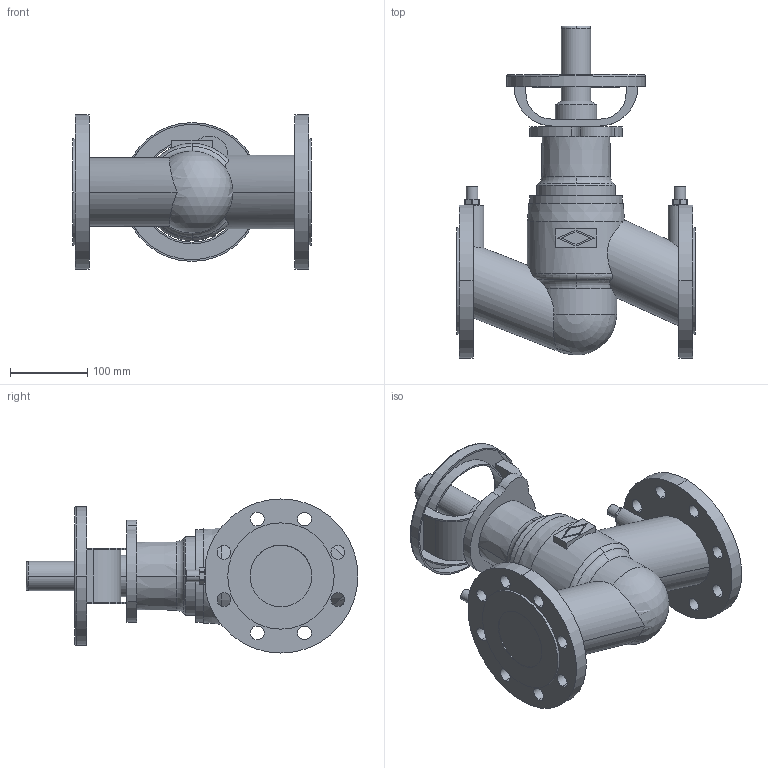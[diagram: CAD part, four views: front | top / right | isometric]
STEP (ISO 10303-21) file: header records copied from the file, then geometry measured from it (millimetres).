
FILE_DESCRIPTION( ( '' ), '1' );
FILE_NAME( 'F:/DE-SHS/TB/OR/04-Sonstiges/daten/files_3d/12020/c000000216.stp', '2015-04-28T06:36:36', ( '' ), ( '' ), ' ', ' ', ' ' );
FILE_SCHEMA( ( 'CONFIG_CONTROL_DESIGN' ) );
Length unit declared in the file: millimetre
Products named in the file (1): 1
Bounding box: 310 x 430.75 x 200 mm (x, y, z)
Volume: 5388231 mm3; surface area: 418417.9 mm2
Topology: 1 solids, 1 shells, 204 faces, 542 edges, 357 vertices
Faces by surface type: cylinder 109, plane 70, torus 16, cone 8, sphere 1
Entity records: 7027 total; most frequent: CARTESIAN_POINT 1624, DIRECTION 1191, ORIENTED_EDGE 1080, EDGE_CURVE 540, AXIS2_PLACEMENT_3D 470, VERTEX_POINT 357, CIRCLE 261, EDGE_LOOP 259
